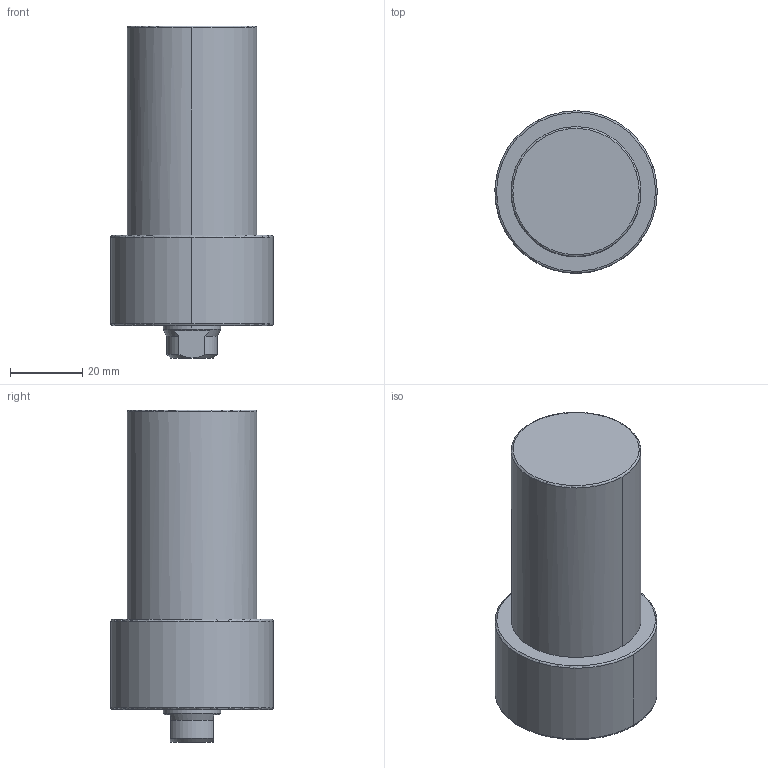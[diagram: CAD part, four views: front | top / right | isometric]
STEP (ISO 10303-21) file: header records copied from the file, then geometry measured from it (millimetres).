
FILE_DESCRIPTION((' '),'2;1');
FILE_NAME( 'TLLU-036GA-050.STEP.stp', '2025-10-24T16:37:04', (' '), ('--- Datakit www.datakit.com---'), ' Datakit CrossCadWare V2024.1 Dec 21 2023', 'Mastercam 2025', ' ');
FILE_SCHEMA(('AUTOMOTIVE_DESIGN { 1 0 10303 214 1 1 1 1 }'));
Length unit declared in the file: millimetre
Products named in the file (1): TLLU-036GA-050
Bounding box: 44.99 x 45 x 92 mm (x, y, z)
Volume: 99203.5 mm3; surface area: 14391.4 mm2
Topology: 1 solids, 1 shells, 62 faces, 172 edges, 111 vertices
Faces by surface type: cone 24, cylinder 22, plane 10, torus 6
Entity records: 2034 total; most frequent: DIRECTION 386, CARTESIAN_POINT 380, ORIENTED_EDGE 324, AXIS2_PLACEMENT_3D 169, EDGE_CURVE 162, VERTEX_POINT 111, CIRCLE 106, EDGE_LOOP 71
